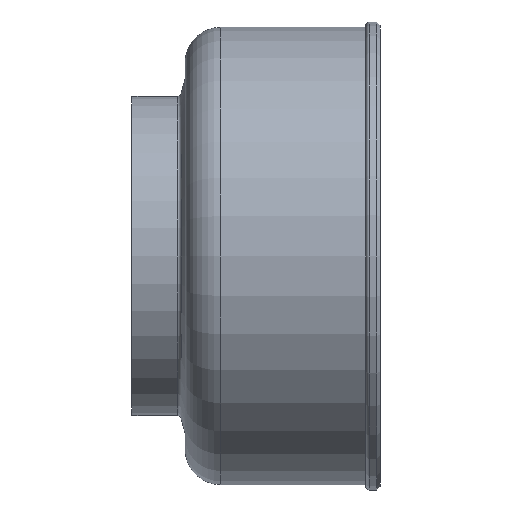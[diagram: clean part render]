
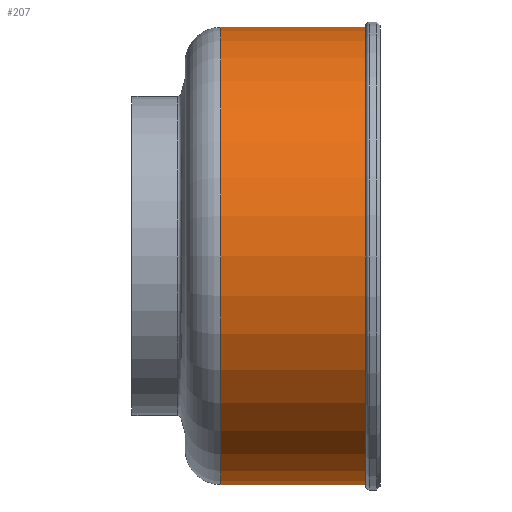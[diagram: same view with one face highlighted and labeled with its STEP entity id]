
A CAD part, front view. The second image highlights one B-rep face of the part: STEP entity #207.
In plain terms, the highlighted cylindrical face has radius 64.5 mm (diameter 129 mm), a full revolution.
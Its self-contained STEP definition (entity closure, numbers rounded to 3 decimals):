
#13=CYLINDRICAL_SURFACE($,#234,64.5);
#31=FACE_BOUND($,#74,.T.);
#52=FACE_OUTER_BOUND($,#73,.T.);
#73=EDGE_LOOP($,(#168));
#74=EDGE_LOOP($,(#169));
#107=CIRCLE($,#233,64.5);
#108=CIRCLE($,#235,64.5);
#126=VERTEX_POINT($,#354);
#127=VERTEX_POINT($,#357);
#145=EDGE_CURVE($,#126,#126,#107,.T.);
#146=EDGE_CURVE($,#127,#127,#108,.T.);
#168=ORIENTED_EDGE($,*,*,#146,.F.);
#169=ORIENTED_EDGE($,*,*,#145,.T.);
#207=ADVANCED_FACE($,(#52,#31),#13,.T.);
#233=AXIS2_PLACEMENT_3D($,#355,#281,#282);
#234=AXIS2_PLACEMENT_3D($,#356,#283,#284);
#235=AXIS2_PLACEMENT_3D($,#358,#285,#286);
#281=DIRECTION('center_axis',(1.,0.,0.));
#282=DIRECTION('ref_axis',(0.,1.,0.));
#283=DIRECTION('center_axis',(1.,0.,0.));
#284=DIRECTION('ref_axis',(0.,1.,0.));
#285=DIRECTION('center_axis',(1.,0.,0.));
#286=DIRECTION('ref_axis',(0.,1.,0.));
#354=CARTESIAN_POINT('',(25.,64.5,0.));
#355=CARTESIAN_POINT('Origin',(25.,0.,0.));
#356=CARTESIAN_POINT('Origin',(45.5,0.,0.));
#357=CARTESIAN_POINT('',(66.,64.5,0.));
#358=CARTESIAN_POINT('Origin',(66.,0.,0.));
